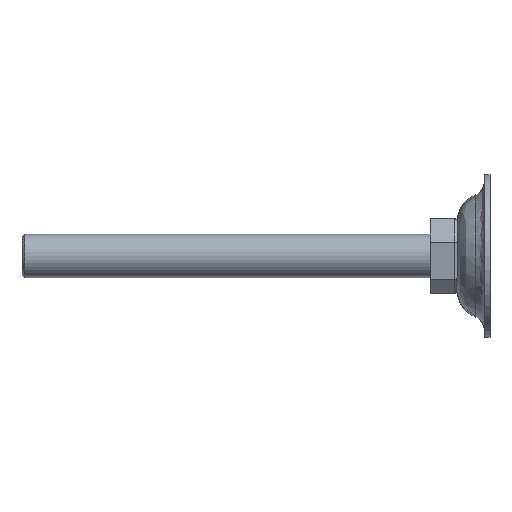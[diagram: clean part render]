
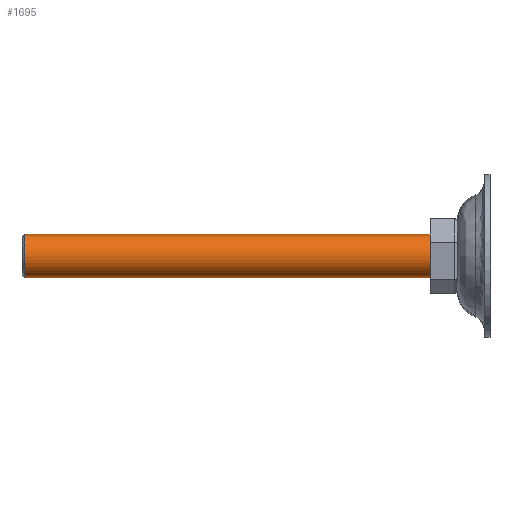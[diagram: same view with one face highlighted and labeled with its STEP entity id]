
A CAD part, left-side view. The second image highlights one B-rep face of the part: STEP entity #1695.
In plain terms, the highlighted cylindrical face has radius 8 mm (diameter 16 mm), a partial arc.
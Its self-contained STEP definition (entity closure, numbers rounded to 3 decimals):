
#36 = AXIS2_PLACEMENT_3D ( 'NONE', #1543, #820, #451 ) ;
#47 = CARTESIAN_POINT ( 'NONE',  ( -36.124, 16.585, 0. ) ) ;
#67 = DIRECTION ( 'NONE',  ( 0., 0., -1. ) ) ;
#160 = DIRECTION ( 'NONE',  ( 0., -1., 0. ) ) ;
#233 = EDGE_CURVE ( 'NONE', #464, #1941, #1424, .T. ) ;
#305 = CARTESIAN_POINT ( 'NONE',  ( -36.124, 166.585, -8. ) ) ;
#373 = EDGE_CURVE ( 'NONE', #1765, #464, #2153, .T. ) ;
#448 = DIRECTION ( 'NONE',  ( 0., 0., -1. ) ) ;
#451 = DIRECTION ( 'NONE',  ( 0., 0., -1. ) ) ;
#464 = VERTEX_POINT ( 'NONE', #837 ) ;
#468 = DIRECTION ( 'NONE',  ( 0., 1., 0. ) ) ;
#483 = ORIENTED_EDGE ( 'NONE', *, *, #531, .F. ) ;
#531 = EDGE_CURVE ( 'NONE', #1490, #1941, #556, .T. ) ;
#541 = ORIENTED_EDGE ( 'NONE', *, *, #1279, .T. ) ;
#547 = CARTESIAN_POINT ( 'NONE',  ( -36.124, 166.585, 8. ) ) ;
#556 = LINE ( 'NONE', #547, #1442 ) ;
#592 = CARTESIAN_POINT ( 'NONE',  ( -36.124, 165.585, -8. ) ) ;
#728 = EDGE_LOOP ( 'NONE', ( #483, #541, #2165, #1544 ) ) ;
#820 = DIRECTION ( 'NONE',  ( 0., -1., 0. ) ) ;
#837 = CARTESIAN_POINT ( 'NONE',  ( -36.124, 16.585, -8. ) ) ;
#993 = DIRECTION ( 'NONE',  ( 0., -1., 0. ) ) ;
#1098 = AXIS2_PLACEMENT_3D ( 'NONE', #1920, #1758, #67 ) ;
#1196 = AXIS2_PLACEMENT_3D ( 'NONE', #47, #468, #448 ) ;
#1279 = EDGE_CURVE ( 'NONE', #1490, #1765, #1474, .T. ) ;
#1416 = CARTESIAN_POINT ( 'NONE',  ( -36.124, 165.585, 8. ) ) ;
#1424 = CIRCLE ( 'NONE', #1196, 8. ) ;
#1442 = VECTOR ( 'NONE', #160, 1000. ) ;
#1474 = CIRCLE ( 'NONE', #36, 8. ) ;
#1490 = VERTEX_POINT ( 'NONE', #1416 ) ;
#1543 = CARTESIAN_POINT ( 'NONE',  ( -36.124, 165.585, 0. ) ) ;
#1544 = ORIENTED_EDGE ( 'NONE', *, *, #233, .T. ) ;
#1644 = CARTESIAN_POINT ( 'NONE',  ( -36.124, 16.585, 8. ) ) ;
#1695 = ADVANCED_FACE ( 'NONE', ( #2095 ), #2048, .T. ) ;
#1711 = VECTOR ( 'NONE', #993, 1000. ) ;
#1758 = DIRECTION ( 'NONE',  ( 0., -1., 0. ) ) ;
#1765 = VERTEX_POINT ( 'NONE', #592 ) ;
#1920 = CARTESIAN_POINT ( 'NONE',  ( -36.124, 166.585, 0. ) ) ;
#1941 = VERTEX_POINT ( 'NONE', #1644 ) ;
#2048 = CYLINDRICAL_SURFACE ( 'NONE', #1098, 8. ) ;
#2095 = FACE_OUTER_BOUND ( 'NONE', #728, .T. ) ;
#2153 = LINE ( 'NONE', #305, #1711 ) ;
#2165 = ORIENTED_EDGE ( 'NONE', *, *, #373, .T. ) ;
